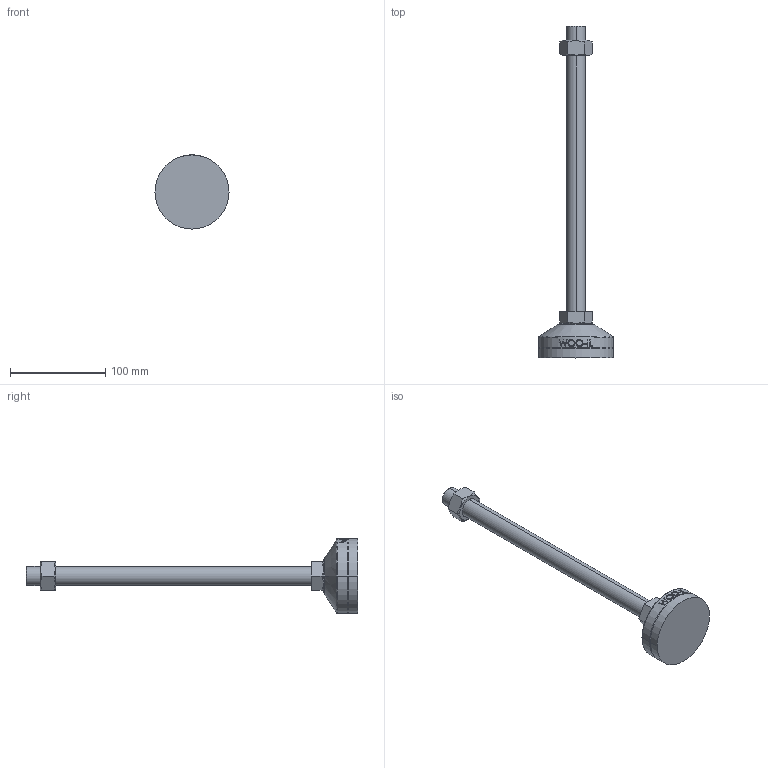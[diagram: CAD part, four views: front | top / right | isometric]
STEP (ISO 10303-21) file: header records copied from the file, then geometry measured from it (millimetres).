
FILE_DESCRIPTION (( 'STEP AP214' ), '1' );
FILE_NAME ('MFR78-M20-300.step', '2021-01-13T05:39:51', ( '' ), ( '' ), 'SwSTEP 2.0', 'SolidWorks 2019', '' );
FILE_SCHEMA (( 'AUTOMOTIVE_DESIGN' ));
Length unit declared in the file: millimetre
Products named in the file (2): MFR78-M20-300
Bounding box: 78 x 349 x 78 mm (x, y, z)
Volume: 254809.3 mm3; surface area: 41322.7 mm2
Topology: 3 solids, 3 shells, 102 faces, 235 edges, 150 vertices
Faces by surface type: plane 48, cylinder 18, bspline 16, cone 14, torus 6
Entity records: 4428 total; most frequent: CARTESIAN_POINT 2173, ORIENTED_EDGE 470, DIRECTION 415, EDGE_CURVE 235, AXIS2_PLACEMENT_3D 158, VERTEX_POINT 150, EDGE_LOOP 115, ADVANCED_FACE 102
